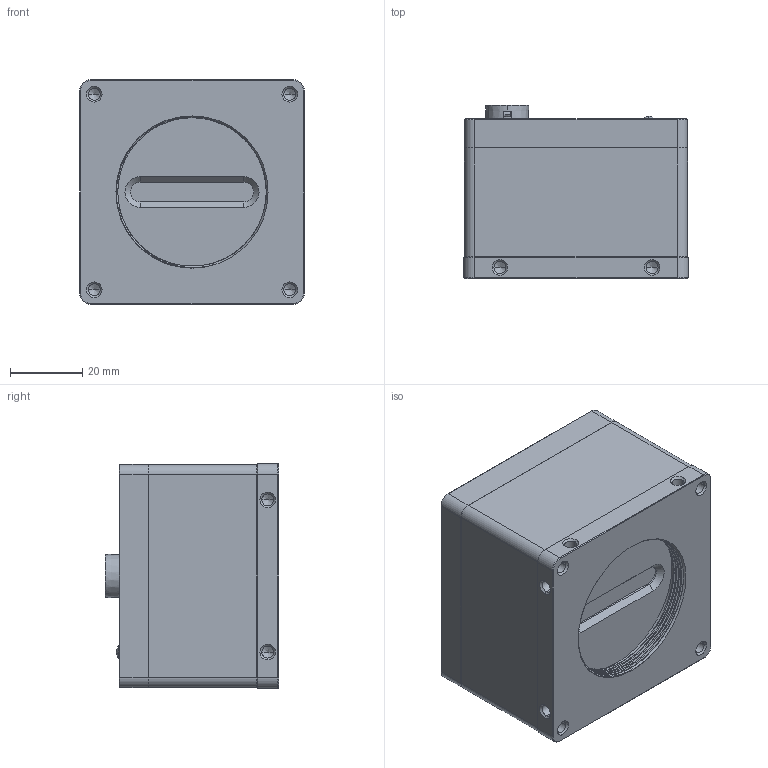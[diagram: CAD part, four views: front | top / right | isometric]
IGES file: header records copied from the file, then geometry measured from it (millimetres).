
Start section:  PTC IGES file: 0-dh3-3077-0003_sw0001.igs
Global section: file name: 0-dh3-3077-0003_sw0001.igs; native system: Creo Parametric by PTC Inc.; preprocessor: 2020184; author: 303992; organization: Unknown; date: 20231221.144725; units: millimetre
Bounding box: 62 x 47.8 x 62 mm (x, y, z)
Volume: 155028.2 mm3; surface area: 24744.9 mm2
Topology: 1 solids, 1 shells, 857 faces, 2292 edges, 1448 vertices
Faces by surface type: bspline 473, revolution 384
